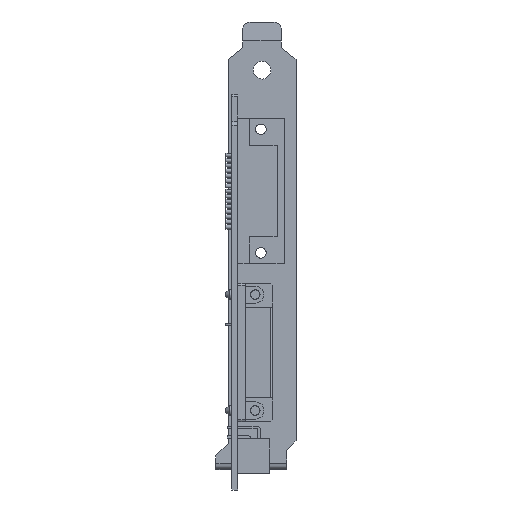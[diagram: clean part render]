
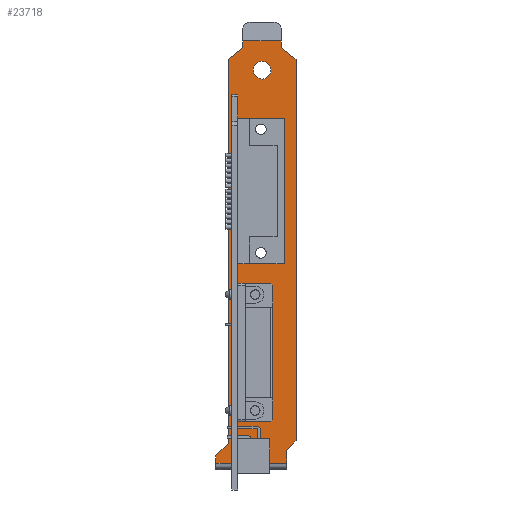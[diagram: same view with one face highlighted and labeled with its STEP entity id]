
A CAD part, front view. The second image highlights one B-rep face of the part: STEP entity #23718.
In plain terms, the highlighted planar face has unit normal (0, -1, 0).
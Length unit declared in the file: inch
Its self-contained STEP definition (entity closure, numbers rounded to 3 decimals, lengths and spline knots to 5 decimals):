
#6661=DIRECTION('',(1.,0.,0.));
#6662=VECTOR('',#6661,0.412);
#6663=CARTESIAN_POINT('',(0.115,0.33,0.764));
#6664=LINE('',#6663,#6662);
#6665=DIRECTION('',(0.,0.,-1.));
#6666=VECTOR('',#6665,0.074);
#6667=CARTESIAN_POINT('',(0.527,0.33,0.764));
#6668=LINE('',#6667,#6666);
#6669=DIRECTION('',(-0.788,0.,0.616));
#6670=VECTOR('',#6669,0.1967);
#6671=CARTESIAN_POINT('',(0.682,0.33,0.5689));
#6672=LINE('',#6671,#6670);
#6673=DIRECTION('',(0.707,0.,0.707));
#6674=VECTOR('',#6673,0.14142);
#6675=CARTESIAN_POINT('',(0.582,0.33,-3.583));
#6676=LINE('',#6675,#6674);
#6677=DIRECTION('',(0.,0.,1.));
#6678=VECTOR('',#6677,0.137);
#6679=CARTESIAN_POINT('',(0.582,0.33,-3.72));
#6680=LINE('',#6679,#6678);
#6681=DIRECTION('',(-1.,0.,0.));
#6682=VECTOR('',#6681,0.75);
#6683=CARTESIAN_POINT('',(0.582,0.33,-3.72));
#6684=LINE('',#6683,#6682);
#6685=DIRECTION('',(-0.707,0.,-0.707));
#6686=VECTOR('',#6685,0.18102);
#6687=CARTESIAN_POINT('',(-0.04,0.33,-3.514));
#6688=LINE('',#6687,#6686);
#6689=DIRECTION('',(0.,0.,-1.));
#6690=VECTOR('',#6689,4.0829);
#6691=CARTESIAN_POINT('',(-0.04,0.33,0.5689));
#6692=LINE('',#6691,#6690);
#6693=DIRECTION('',(-0.788,0.,-0.616));
#6694=VECTOR('',#6693,0.1967);
#6695=CARTESIAN_POINT('',(0.115,0.33,0.69));
#6696=LINE('',#6695,#6694);
#6697=DIRECTION('',(0.,0.,-1.));
#6698=VECTOR('',#6697,0.074);
#6699=CARTESIAN_POINT('',(0.115,0.33,0.764));
#6700=LINE('',#6699,#6698);
#6701=CARTESIAN_POINT('',(0.321,0.33,0.453));
#6702=DIRECTION('',(0.,1.,0.));
#6703=DIRECTION('',(0.,0.,1.));
#6704=AXIS2_PLACEMENT_3D('',#6701,#6702,#6703);
#6706=CARTESIAN_POINT('',(0.321,0.33,0.453));
#6707=DIRECTION('',(0.,1.,0.));
#6708=DIRECTION('',(0.,0.,-1.));
#6709=AXIS2_PLACEMENT_3D('',#6706,#6707,#6708);
#6711=DIRECTION('',(-1.,0.,0.));
#6712=VECTOR('',#6711,0.35236);
#6713=CARTESIAN_POINT('',(0.41436,0.33,-3.278));
#6714=LINE('',#6713,#6712);
#6715=DIRECTION('',(-0.707,0.,-0.707));
#6716=VECTOR('',#6715,0.02784);
#6717=CARTESIAN_POINT('',(0.43405,0.33,-3.25831));
#6718=LINE('',#6717,#6716);
#6719=DIRECTION('',(0.,0.,-1.));
#6720=VECTOR('',#6719,1.42756);
#6721=CARTESIAN_POINT('',(0.43405,0.33,-1.83076));
#6722=LINE('',#6721,#6720);
#6723=DIRECTION('',(-0.707,0.,0.707));
#6724=VECTOR('',#6723,0.02784);
#6725=CARTESIAN_POINT('',(0.43405,0.33,-1.83076));
#6726=LINE('',#6725,#6724);
#6727=DIRECTION('',(1.,0.,0.));
#6728=VECTOR('',#6727,0.35236);
#6729=CARTESIAN_POINT('',(0.062,0.33,-1.81107));
#6730=LINE('',#6729,#6728);
#6731=DIRECTION('',(0.,0.,1.));
#6732=VECTOR('',#6731,1.46693);
#6733=CARTESIAN_POINT('',(0.062,0.33,-3.278));
#6734=LINE('',#6733,#6732);
#6735=DIRECTION('',(0.,0.,1.));
#6736=VECTOR('',#6735,1.541);
#6737=CARTESIAN_POINT('',(0.062,0.33,-1.601));
#6738=LINE('',#6737,#6736);
#6739=DIRECTION('',(1.,0.,0.));
#6740=VECTOR('',#6739,0.494);
#6741=CARTESIAN_POINT('',(0.062,0.33,-1.601));
#6742=LINE('',#6741,#6740);
#6743=DIRECTION('',(0.,0.,1.));
#6744=VECTOR('',#6743,1.541);
#6745=CARTESIAN_POINT('',(0.556,0.33,-1.601));
#6746=LINE('',#6745,#6744);
#6747=DIRECTION('',(1.,0.,0.));
#6748=VECTOR('',#6747,0.494);
#6749=CARTESIAN_POINT('',(0.062,0.33,-0.06));
#6750=LINE('',#6749,#6748);
#6797=DIRECTION('',(0.,0.,1.));
#6798=VECTOR('',#6797,0.078);
#6799=CARTESIAN_POINT('',(-0.168,0.33,-3.72));
#6800=LINE('',#6799,#6798);
#7149=DIRECTION('',(0.,0.,1.));
#7150=VECTOR('',#7149,4.0519);
#7151=CARTESIAN_POINT('',(0.682,0.33,-3.483));
#7152=LINE('',#7151,#7150);
#13646=CARTESIAN_POINT('',(-0.168,0.33,-3.72));
#13648=VERTEX_POINT('',#13646);
#13649=CARTESIAN_POINT('',(0.582,0.33,-3.72));
#13651=VERTEX_POINT('',#13649);
#13653=CARTESIAN_POINT('',(0.582,0.33,-3.583));
#13654=VERTEX_POINT('',#13653);
#13655=CARTESIAN_POINT('',(0.682,0.33,-3.483));
#13656=VERTEX_POINT('',#13655);
#13657=CARTESIAN_POINT('',(0.115,0.33,0.69));
#13658=CARTESIAN_POINT('',(-0.04,0.33,0.5689));
#13659=VERTEX_POINT('',#13657);
#13660=VERTEX_POINT('',#13658);
#13661=CARTESIAN_POINT('',(-0.04,0.33,-3.514));
#13662=VERTEX_POINT('',#13661);
#13663=CARTESIAN_POINT('',(-0.168,0.33,-3.642));
#13664=VERTEX_POINT('',#13663);
#13665=CARTESIAN_POINT('',(0.682,0.33,0.5689));
#13666=CARTESIAN_POINT('',(0.527,0.33,0.69));
#13667=VERTEX_POINT('',#13665);
#13668=VERTEX_POINT('',#13666);
#13777=CARTESIAN_POINT('',(0.321,0.33,0.5465));
#13778=CARTESIAN_POINT('',(0.321,0.33,0.3595));
#13779=VERTEX_POINT('',#13777);
#13780=VERTEX_POINT('',#13778);
#13781=CARTESIAN_POINT('',(0.115,0.33,0.764));
#13782=VERTEX_POINT('',#13781);
#13783=CARTESIAN_POINT('',(0.527,0.33,0.764));
#13784=VERTEX_POINT('',#13783);
#14182=CARTESIAN_POINT('',(0.41436,0.33,-3.278));
#14183=CARTESIAN_POINT('',(0.062,0.33,-3.278));
#14184=VERTEX_POINT('',#14182);
#14185=VERTEX_POINT('',#14183);
#14186=CARTESIAN_POINT('',(0.062,0.33,-1.81107));
#14187=VERTEX_POINT('',#14186);
#14188=CARTESIAN_POINT('',(0.41436,0.33,-1.81107));
#14189=VERTEX_POINT('',#14188);
#14190=CARTESIAN_POINT('',(0.43405,0.33,-1.83076));
#14191=CARTESIAN_POINT('',(0.43405,0.33,-3.25831));
#14192=VERTEX_POINT('',#14190);
#14193=VERTEX_POINT('',#14191);
#14726=CARTESIAN_POINT('',(0.062,0.33,-1.601));
#14727=CARTESIAN_POINT('',(0.062,0.33,-0.06));
#14728=VERTEX_POINT('',#14726);
#14729=VERTEX_POINT('',#14727);
#14730=CARTESIAN_POINT('',(0.556,0.33,-1.601));
#14731=VERTEX_POINT('',#14730);
#14732=CARTESIAN_POINT('',(0.556,0.33,-0.06));
#14733=VERTEX_POINT('',#14732);
#23663=CARTESIAN_POINT('',(0.682,0.33,-3.72));
#23664=DIRECTION('',(0.,1.,0.));
#23665=DIRECTION('',(0.,0.,1.));
#23666=AXIS2_PLACEMENT_3D('',#23663,#23664,#23665);
#23667=PLANE('',#23666);
#23669=ORIENTED_EDGE('',*,*,#23668,.T.);
#23671=ORIENTED_EDGE('',*,*,#23670,.T.);
#23673=ORIENTED_EDGE('',*,*,#23672,.F.);
#23675=ORIENTED_EDGE('',*,*,#23674,.F.);
#23677=ORIENTED_EDGE('',*,*,#23676,.F.);
#23679=ORIENTED_EDGE('',*,*,#23678,.F.);
#23681=ORIENTED_EDGE('',*,*,#23680,.T.);
#23683=ORIENTED_EDGE('',*,*,#23682,.T.);
#23685=ORIENTED_EDGE('',*,*,#23684,.F.);
#23687=ORIENTED_EDGE('',*,*,#23686,.F.);
#23689=ORIENTED_EDGE('',*,*,#23688,.F.);
#23691=ORIENTED_EDGE('',*,*,#23690,.F.);
#23692=EDGE_LOOP('',(#23669,#23671,#23673,#23675,#23677,#23679,#23681,#23683,
#23685,#23687,#23689,#23691));
#23693=FACE_OUTER_BOUND('',#23692,.F.);
#23695=ORIENTED_EDGE('',*,*,#23694,.F.);
#23697=ORIENTED_EDGE('',*,*,#23696,.F.);
#23698=EDGE_LOOP('',(#23695,#23697));
#23699=FACE_BOUND('',#23698,.F.);
#23700=ORIENTED_EDGE('',*,*,#23596,.F.);
#23702=ORIENTED_EDGE('',*,*,#23701,.F.);
#23704=ORIENTED_EDGE('',*,*,#23703,.F.);
#23706=ORIENTED_EDGE('',*,*,#23705,.T.);
#23707=ORIENTED_EDGE('',*,*,#23651,.F.);
#23708=ORIENTED_EDGE('',*,*,#23575,.F.);
#23709=EDGE_LOOP('',(#23700,#23702,#23704,#23706,#23707,#23708));
#23710=FACE_BOUND('',#23709,.F.);
#23711=ORIENTED_EDGE('',*,*,#16004,.F.);
#23712=ORIENTED_EDGE('',*,*,#15947,.T.);
#23714=ORIENTED_EDGE('',*,*,#23713,.T.);
#23715=ORIENTED_EDGE('',*,*,#15984,.F.);
#23716=EDGE_LOOP('',(#23711,#23712,#23714,#23715));
#23717=FACE_BOUND('',#23716,.F.);
#23718=ADVANCED_FACE('',(#23693,#23699,#23710,#23717),#23667,.F.);
#6705=CIRCLE('',#6704,0.0935);
#6710=CIRCLE('',#6709,0.0935);
#15947=EDGE_CURVE('',#14728,#14731,#6742,.T.);
#15984=EDGE_CURVE('',#14729,#14733,#6750,.T.);
#16004=EDGE_CURVE('',#14728,#14729,#6738,.T.);
#23575=EDGE_CURVE('',#14185,#14187,#6734,.T.);
#23596=EDGE_CURVE('',#14184,#14185,#6714,.T.);
#23651=EDGE_CURVE('',#14187,#14189,#6730,.T.);
#23668=EDGE_CURVE('',#13782,#13784,#6664,.T.);
#23670=EDGE_CURVE('',#13784,#13668,#6668,.T.);
#23672=EDGE_CURVE('',#13667,#13668,#6672,.T.);
#23674=EDGE_CURVE('',#13656,#13667,#7152,.T.);
#23676=EDGE_CURVE('',#13654,#13656,#6676,.T.);
#23678=EDGE_CURVE('',#13651,#13654,#6680,.T.);
#23680=EDGE_CURVE('',#13651,#13648,#6684,.T.);
#23682=EDGE_CURVE('',#13648,#13664,#6800,.T.);
#23684=EDGE_CURVE('',#13662,#13664,#6688,.T.);
#23686=EDGE_CURVE('',#13660,#13662,#6692,.T.);
#23688=EDGE_CURVE('',#13659,#13660,#6696,.T.);
#23690=EDGE_CURVE('',#13782,#13659,#6700,.T.);
#23694=EDGE_CURVE('',#13779,#13780,#6705,.T.);
#23696=EDGE_CURVE('',#13780,#13779,#6710,.T.);
#23701=EDGE_CURVE('',#14193,#14184,#6718,.T.);
#23703=EDGE_CURVE('',#14192,#14193,#6722,.T.);
#23705=EDGE_CURVE('',#14192,#14189,#6726,.T.);
#23713=EDGE_CURVE('',#14731,#14733,#6746,.T.);
